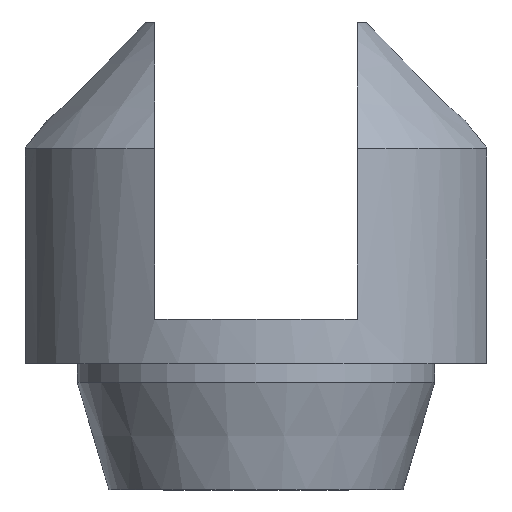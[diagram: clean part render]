
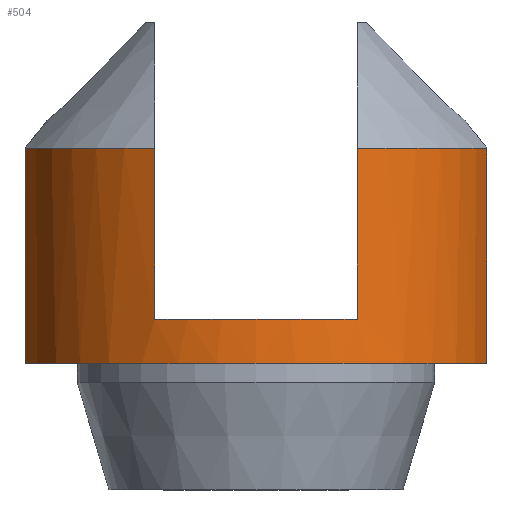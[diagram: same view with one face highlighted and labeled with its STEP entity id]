
A CAD part, left-side view. The second image highlights one B-rep face of the part: STEP entity #504.
In plain terms, the highlighted cylindrical face has radius 7.5 mm (diameter 15 mm), a partial arc.
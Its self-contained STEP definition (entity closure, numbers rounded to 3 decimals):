
#36=B_SPLINE_CURVE_WITH_KNOTS('',3,(#840,#841,#842,#843,#844,#845,#846),
 .UNSPECIFIED.,.F.,.F.,(4,3,4),(1.038,1.089,1.141),
 .UNSPECIFIED.);
#39=B_SPLINE_CURVE_WITH_KNOTS('',3,(#920,#921,#922,#923,#924,#925,#926),
 .UNSPECIFIED.,.F.,.F.,(4,3,4),(-0.052,0.,0.052),
 .UNSPECIFIED.);
#43=CYLINDRICAL_SURFACE('',#569,7.5);
#61=FACE_OUTER_BOUND('',#89,.T.);
#89=EDGE_LOOP('',(#408,#409,#410,#411,#412,#413,#414,#415,#416,#417,#418,
#419));
#103=LINE('',#739,#133);
#106=LINE('',#749,#136);
#112=LINE('',#827,#142);
#114=LINE('',#833,#144);
#123=LINE('',#914,#153);
#126=LINE('',#929,#156);
#133=VECTOR('',#593,10.);
#136=VECTOR('',#602,10.);
#142=VECTOR('',#638,10.);
#144=VECTOR('',#644,10.);
#153=VECTOR('',#685,10.);
#156=VECTOR('',#694,10.);
#173=CIRCLE('',#545,7.5);
#186=CIRCLE('',#566,7.5);
#188=CIRCLE('',#570,7.5);
#189=CIRCLE('',#571,7.5);
#195=VERTEX_POINT('',#736);
#196=VERTEX_POINT('',#738);
#198=VERTEX_POINT('',#744);
#200=VERTEX_POINT('',#747);
#215=VERTEX_POINT('',#810);
#216=VERTEX_POINT('',#812);
#219=VERTEX_POINT('',#825);
#220=VERTEX_POINT('',#829);
#221=VERTEX_POINT('',#831);
#233=VERTEX_POINT('',#894);
#238=VERTEX_POINT('',#912);
#240=VERTEX_POINT('',#927);
#246=EDGE_CURVE('',#196,#195,#103,.T.);
#251=EDGE_CURVE('',#198,#200,#106,.T.);
#268=EDGE_CURVE('',#215,#216,#173,.T.);
#274=EDGE_CURVE('',#219,#215,#112,.T.);
#277=EDGE_CURVE('',#221,#220,#114,.T.);
#281=EDGE_CURVE('',#219,#220,#36,.T.);
#296=EDGE_CURVE('',#233,#200,#186,.T.);
#302=EDGE_CURVE('',#238,#233,#123,.T.);
#306=EDGE_CURVE('',#195,#198,#39,.T.);
#307=EDGE_CURVE('',#240,#238,#188,.T.);
#308=EDGE_CURVE('',#216,#240,#126,.T.);
#309=EDGE_CURVE('',#196,#221,#189,.T.);
#408=ORIENTED_EDGE('',*,*,#306,.T.);
#409=ORIENTED_EDGE('',*,*,#251,.T.);
#410=ORIENTED_EDGE('',*,*,#296,.F.);
#411=ORIENTED_EDGE('',*,*,#302,.F.);
#412=ORIENTED_EDGE('',*,*,#307,.F.);
#413=ORIENTED_EDGE('',*,*,#308,.F.);
#414=ORIENTED_EDGE('',*,*,#268,.F.);
#415=ORIENTED_EDGE('',*,*,#274,.F.);
#416=ORIENTED_EDGE('',*,*,#281,.T.);
#417=ORIENTED_EDGE('',*,*,#277,.F.);
#418=ORIENTED_EDGE('',*,*,#309,.F.);
#419=ORIENTED_EDGE('',*,*,#246,.T.);
#504=ADVANCED_FACE('',(#61),#43,.T.);
#545=AXIS2_PLACEMENT_3D('',#813,#628,#629);
#566=AXIS2_PLACEMENT_3D('',#898,#678,#679);
#569=AXIS2_PLACEMENT_3D('',#919,#690,#691);
#570=AXIS2_PLACEMENT_3D('',#928,#692,#693);
#571=AXIS2_PLACEMENT_3D('',#930,#695,#696);
#593=DIRECTION('',(0.,0.,1.));
#602=DIRECTION('',(0.,0.,1.));
#628=DIRECTION('center_axis',(0.,0.,1.));
#629=DIRECTION('ref_axis',(0.,-1.,0.));
#638=DIRECTION('',(0.,0.,1.));
#644=DIRECTION('',(0.,0.,1.));
#678=DIRECTION('center_axis',(0.,0.,1.));
#679=DIRECTION('ref_axis',(0.,-1.,0.));
#685=DIRECTION('',(0.,0.,1.));
#690=DIRECTION('center_axis',(0.,0.,1.));
#691=DIRECTION('ref_axis',(0.,-1.,0.));
#692=DIRECTION('center_axis',(0.,0.,1.));
#693=DIRECTION('ref_axis',(0.,-1.,0.));
#694=DIRECTION('',(0.,0.,-1.));
#695=DIRECTION('center_axis',(0.,0.,
-1.));
#696=DIRECTION('ref_axis',(0.,-1.,0.));
#736=CARTESIAN_POINT('',(-1.72,-7.3,0.971));
#738=CARTESIAN_POINT('',(-1.72,-7.3,-4.4));
#739=CARTESIAN_POINT('',(-1.72,-7.3,-4.4));
#744=CARTESIAN_POINT('',(-1.72,-7.3,2.029));
#747=CARTESIAN_POINT('',(-1.72,-7.3,2.4));
#749=CARTESIAN_POINT('',(-1.72,-7.3,-4.4));
#810=CARTESIAN_POINT('',(-1.72,7.3,2.4));
#812=CARTESIAN_POINT('',(-6.783,3.2,2.4));
#813=CARTESIAN_POINT('Origin',(0.,0.,
2.4));
#825=CARTESIAN_POINT('',(-1.72,7.3,2.029));
#827=CARTESIAN_POINT('',(-1.72,7.3,-4.4));
#829=CARTESIAN_POINT('',(-1.72,7.3,0.971));
#831=CARTESIAN_POINT('',(-1.72,7.3,-4.4));
#833=CARTESIAN_POINT('',(-1.72,7.3,-4.4));
#840=CARTESIAN_POINT('Ctrl Pts',(-1.72,7.3,2.029));
#841=CARTESIAN_POINT('Ctrl Pts',(-1.774,7.287,1.855));
#842=CARTESIAN_POINT('Ctrl Pts',(-1.8,7.281,1.673));
#843=CARTESIAN_POINT('Ctrl Pts',(-1.8,7.281,1.5));
#844=CARTESIAN_POINT('Ctrl Pts',(-1.8,7.281,1.327));
#845=CARTESIAN_POINT('Ctrl Pts',(-1.774,7.287,1.145));
#846=CARTESIAN_POINT('Ctrl Pts',(-1.72,7.3,0.971));
#894=CARTESIAN_POINT('',(-6.783,-3.2,2.4));
#898=CARTESIAN_POINT('Origin',(0.,0.,
2.4));
#912=CARTESIAN_POINT('',(-6.783,-3.2,-3.));
#914=CARTESIAN_POINT('',(-6.783,-3.2,-4.4));
#919=CARTESIAN_POINT('Origin',(0.,0.,
-4.4));
#920=CARTESIAN_POINT('Ctrl Pts',(-1.72,-7.3,0.971));
#921=CARTESIAN_POINT('Ctrl Pts',(-1.774,-7.287,1.145));
#922=CARTESIAN_POINT('Ctrl Pts',(-1.8,-7.281,1.327));
#923=CARTESIAN_POINT('Ctrl Pts',(-1.8,-7.281,1.5));
#924=CARTESIAN_POINT('Ctrl Pts',(-1.8,-7.281,1.673));
#925=CARTESIAN_POINT('Ctrl Pts',(-1.774,-7.287,1.855));
#926=CARTESIAN_POINT('Ctrl Pts',(-1.72,-7.3,2.029));
#927=CARTESIAN_POINT('',(-6.783,3.2,-3.));
#928=CARTESIAN_POINT('Origin',(0.,0.,
-3.));
#929=CARTESIAN_POINT('',(-6.783,3.2,-4.4));
#930=CARTESIAN_POINT('Origin',(0.,0.,
-4.4));
